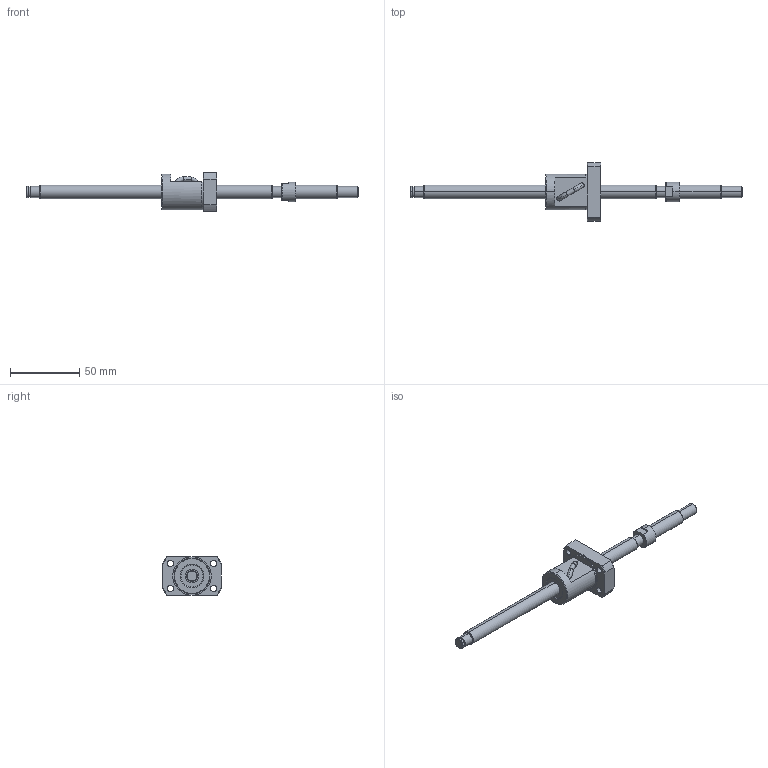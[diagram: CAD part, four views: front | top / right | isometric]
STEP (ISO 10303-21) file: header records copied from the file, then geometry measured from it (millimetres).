
FILE_DESCRIPTION (( 'STEP AP214' ), '1' );
FILE_NAME ('BS1010A-3D.STEP', '2014-03-07T17:30:17', ( '' ), ( '' ), 'SwSTEP 2.0', 'SolidWorks 2012', '' );
FILE_SCHEMA (( 'AUTOMOTIVE_DESIGN' ));
Length unit declared in the file: millimetre
Products named in the file (3): BS1010AŽ²; BS1010Aナット; BS1010A-3D
Assembly tree (2 placements, depth 2):
  BS1010A-3D
    BS1010Aナット
    BS1010AŽ²
Bounding box: 240 x 42 x 28 mm (x, y, z)
Volume: 39163.1 mm3; surface area: 17812.1 mm2
Topology: 5 solids, 5 shells, 166 faces, 418 edges, 270 vertices
Faces by surface type: cylinder 80, plane 45, cone 35, torus 4, bspline 2
Entity records: 6343 total; most frequent: CARTESIAN_POINT 2098, DIRECTION 884, ORIENTED_EDGE 832, EDGE_CURVE 416, AXIS2_PLACEMENT_3D 372, VERTEX_POINT 270, CIRCLE 203, EDGE_LOOP 200
